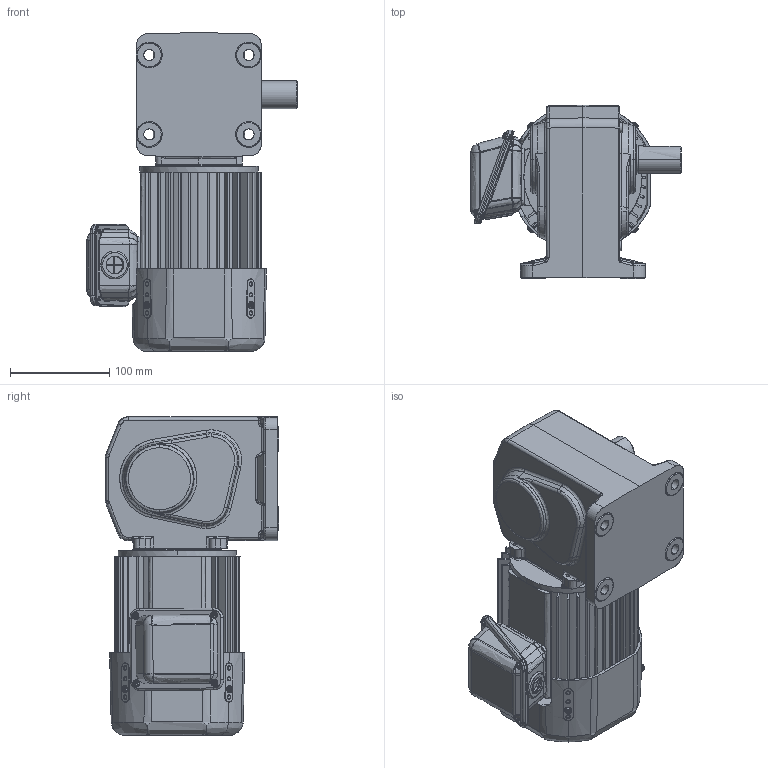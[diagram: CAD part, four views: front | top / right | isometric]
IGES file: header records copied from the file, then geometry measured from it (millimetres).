
Start section: SolidWorks IGES file using analytic representation for surfaces
Global section: file name: \\100.100.100.8\1_共有作業フォルダ\1-5_３Ｄデータ\solidworks\personal-folder\H.Nagayama\HL外形\HL(3D)\igs\TMHL-04-(5~60)B.IGS; native system: SolidWorks 2018; preprocessor: SolidWorks 2018; author: sigma-giken; date: 200324.141902; units: millimetre
Bounding box: 212 x 174.5 x 321 mm (x, y, z)
Surface area: 486621.1 mm2 (no closed solid volume)
Topology: 0 solids, 0 shells, 1883 faces, 24395 edges, 24326 vertices
Faces by surface type: bspline 947, revolution 936
